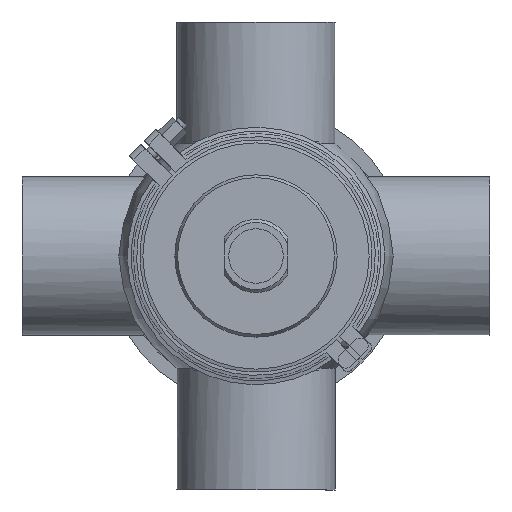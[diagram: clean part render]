
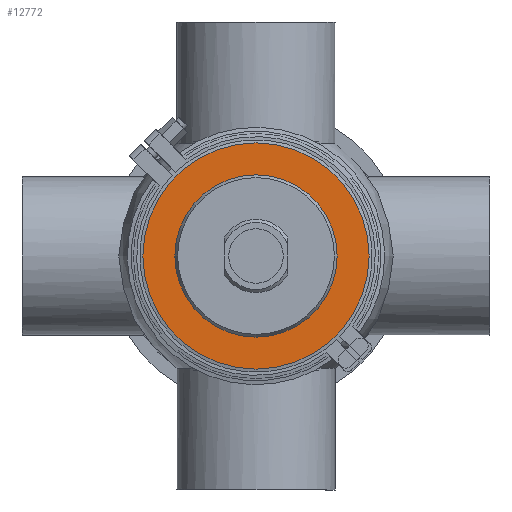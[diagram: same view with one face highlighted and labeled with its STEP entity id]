
A CAD part, front view. The second image highlights one B-rep face of the part: STEP entity #12772.
In plain terms, the highlighted planar face has unit normal (0, -1, 0).
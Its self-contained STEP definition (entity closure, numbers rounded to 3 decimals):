
#2414 = EDGE_LOOP ( 'NONE', ( #3433 ) ) ;
#3433 = ORIENTED_EDGE ( 'NONE', *, *, #15150, .T. ) ;
#9896 = CIRCLE ( 'NONE', #18148, 72.5 ) ;
#12609 = CARTESIAN_POINT ( 'NONE',  ( 0., -13., 0. ) ) ;
#12772 = ADVANCED_FACE ( 'NONE', ( #59883, #14424 ), #54420, .T. ) ;
#14424 = FACE_OUTER_BOUND ( 'NONE', #22580, .T. ) ;
#15150 = EDGE_CURVE ( 'NONE', #24960, #24960, #60916, .T. ) ;
#18148 = AXIS2_PLACEMENT_3D ( 'NONE', #20937, #39966, #55813 ) ;
#20937 = CARTESIAN_POINT ( 'NONE',  ( 0., -13., 0. ) ) ;
#22580 = EDGE_LOOP ( 'NONE', ( #62676 ) ) ;
#24960 = VERTEX_POINT ( 'NONE', #54342 ) ;
#28701 = DIRECTION ( 'NONE',  ( 0., 1., 0. ) ) ;
#34324 = AXIS2_PLACEMENT_3D ( 'NONE', #55071, #43745, #63460 ) ;
#39966 = DIRECTION ( 'NONE',  ( 0., 1., 0. ) ) ;
#43631 = VERTEX_POINT ( 'NONE', #43949 ) ;
#43745 = DIRECTION ( 'NONE',  ( 0., -1., 0. ) ) ;
#43949 = CARTESIAN_POINT ( 'NONE',  ( 0., -13., 72.5 ) ) ;
#44364 = AXIS2_PLACEMENT_3D ( 'NONE', #12609, #28701, #52623 ) ;
#50262 = EDGE_CURVE ( 'NONE', #43631, #43631, #9896, .T. ) ;
#52623 = DIRECTION ( 'NONE',  ( 0., 0., 1. ) ) ;
#54342 = CARTESIAN_POINT ( 'NONE',  ( 0., -13., 52. ) ) ;
#54420 = PLANE ( 'NONE',  #34324 ) ;
#55071 = CARTESIAN_POINT ( 'NONE',  ( -72.5, -13., 0. ) ) ;
#55813 = DIRECTION ( 'NONE',  ( 0., 0., 1. ) ) ;
#59883 = FACE_BOUND ( 'NONE', #2414, .T. ) ;
#60916 = CIRCLE ( 'NONE', #44364, 52. ) ;
#62676 = ORIENTED_EDGE ( 'NONE', *, *, #50262, .F. ) ;
#63460 = DIRECTION ( 'NONE',  ( 0., 0., -1. ) ) ;
